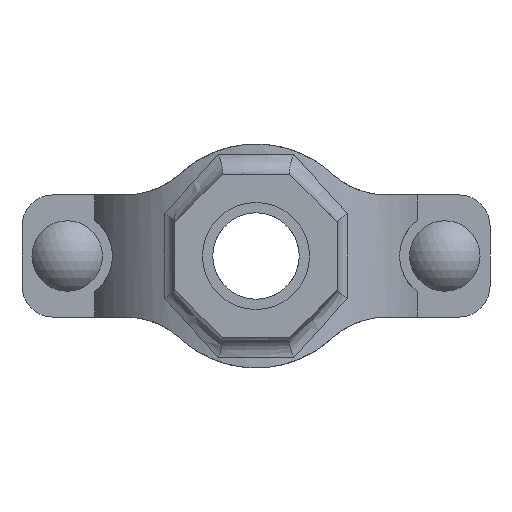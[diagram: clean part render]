
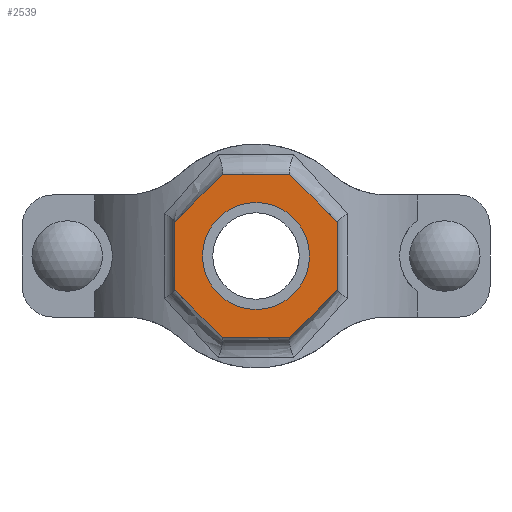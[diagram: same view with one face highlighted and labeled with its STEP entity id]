
A CAD part, front view. The second image highlights one B-rep face of the part: STEP entity #2539.
In plain terms, the highlighted planar face has unit normal (0, -1, 0) as drawn and (0, 1, 0) by its records, which use the part's own axes.
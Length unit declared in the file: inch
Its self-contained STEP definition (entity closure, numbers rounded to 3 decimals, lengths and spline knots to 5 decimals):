
#186=FACE_BOUND('',#459,.T.);
#307=FACE_OUTER_BOUND('',#458,.T.);
#458=EDGE_LOOP('',(#2138,#2139,#2140,#2141,#2142,#2143,#2144,#2145));
#459=EDGE_LOOP('',(#2146));
#594=LINE('',#4609,#780);
#597=LINE('',#4614,#783);
#599=LINE('',#4618,#785);
#601=LINE('',#4622,#787);
#641=LINE('',#5031,#827);
#643=LINE('',#5035,#829);
#645=LINE('',#5039,#831);
#647=LINE('',#5042,#833);
#780=VECTOR('',#3278,0.3937);
#783=VECTOR('',#3283,0.3937);
#785=VECTOR('',#3287,0.3937);
#787=VECTOR('',#3291,0.3937);
#827=VECTOR('',#3427,0.3937);
#829=VECTOR('',#3431,0.3937);
#831=VECTOR('',#3435,0.3937);
#833=VECTOR('',#3439,0.3937);
#919=CIRCLE('',#2802,0.6575);
#1097=VERTEX_POINT('',#4606);
#1098=VERTEX_POINT('',#4608);
#1099=VERTEX_POINT('',#4612);
#1100=VERTEX_POINT('',#4616);
#1101=VERTEX_POINT('',#4620);
#1136=VERTEX_POINT('',#4876);
#1160=VERTEX_POINT('',#5030);
#1161=VERTEX_POINT('',#5034);
#1162=VERTEX_POINT('',#5038);
#1408=EDGE_CURVE('',#1098,#1097,#594,.T.);
#1411=EDGE_CURVE('',#1097,#1099,#597,.T.);
#1413=EDGE_CURVE('',#1099,#1100,#599,.T.);
#1415=EDGE_CURVE('',#1100,#1101,#601,.T.);
#1461=EDGE_CURVE('',#1136,#1136,#919,.T.);
#1495=EDGE_CURVE('',#1160,#1098,#641,.T.);
#1497=EDGE_CURVE('',#1161,#1160,#643,.T.);
#1499=EDGE_CURVE('',#1162,#1161,#645,.T.);
#1501=EDGE_CURVE('',#1101,#1162,#647,.T.);
#2138=ORIENTED_EDGE('',*,*,#1501,.T.);
#2139=ORIENTED_EDGE('',*,*,#1499,.T.);
#2140=ORIENTED_EDGE('',*,*,#1497,.T.);
#2141=ORIENTED_EDGE('',*,*,#1495,.T.);
#2142=ORIENTED_EDGE('',*,*,#1408,.T.);
#2143=ORIENTED_EDGE('',*,*,#1411,.T.);
#2144=ORIENTED_EDGE('',*,*,#1413,.T.);
#2145=ORIENTED_EDGE('',*,*,#1415,.T.);
#2146=ORIENTED_EDGE('',*,*,#1461,.T.);
#2280=PLANE('',#2825);
#2539=ADVANCED_FACE('',(#307,#186),#2280,.T.);
#2802=AXIS2_PLACEMENT_3D('',#4877,#3369,#3370);
#2825=AXIS2_PLACEMENT_3D('',#5043,#3440,#3441);
#3278=DIRECTION('',(0.,0.,1.));
#3283=DIRECTION('',(0.707,0.,0.707));
#3287=DIRECTION('',(1.,0.,0.));
#3291=DIRECTION('',(0.707,0.,-0.707));
#3369=DIRECTION('center_axis',(0.,-1.,0.));
#3370=DIRECTION('ref_axis',(-1.,0.,0.));
#3427=DIRECTION('',(-0.707,0.,0.707));
#3431=DIRECTION('',(-1.,0.,0.));
#3435=DIRECTION('',(-0.707,0.,-0.707));
#3439=DIRECTION('',(0.,0.,-1.));
#3440=DIRECTION('center_axis',(0.,1.,0.));
#3441=DIRECTION('ref_axis',(0.,0.,1.));
#4606=CARTESIAN_POINT('',(-1.,3.06,0.41421));
#4608=CARTESIAN_POINT('',(-1.,3.06,-0.41421));
#4609=CARTESIAN_POINT('',(-1.,3.06,0.41421));
#4612=CARTESIAN_POINT('',(-0.41421,3.06,1.));
#4614=CARTESIAN_POINT('',(-0.41421,3.06,1.));
#4616=CARTESIAN_POINT('',(0.41421,3.06,1.));
#4618=CARTESIAN_POINT('',(0.41421,3.06,1.));
#4620=CARTESIAN_POINT('',(1.,3.06,0.41421));
#4622=CARTESIAN_POINT('',(1.,3.06,0.41421));
#4876=CARTESIAN_POINT('',(0.6575,3.06,0.));
#4877=CARTESIAN_POINT('Origin',(0.,3.06,0.));
#5030=CARTESIAN_POINT('',(-0.41421,3.06,-1.));
#5031=CARTESIAN_POINT('',(-1.,3.06,-0.41421));
#5034=CARTESIAN_POINT('',(0.41421,3.06,-1.));
#5035=CARTESIAN_POINT('',(-0.41421,3.06,-1.));
#5038=CARTESIAN_POINT('',(1.,3.06,-0.41421));
#5039=CARTESIAN_POINT('',(0.41421,3.06,-1.));
#5042=CARTESIAN_POINT('',(1.,3.06,-0.41421));
#5043=CARTESIAN_POINT('Origin',(0.,3.06,0.));
